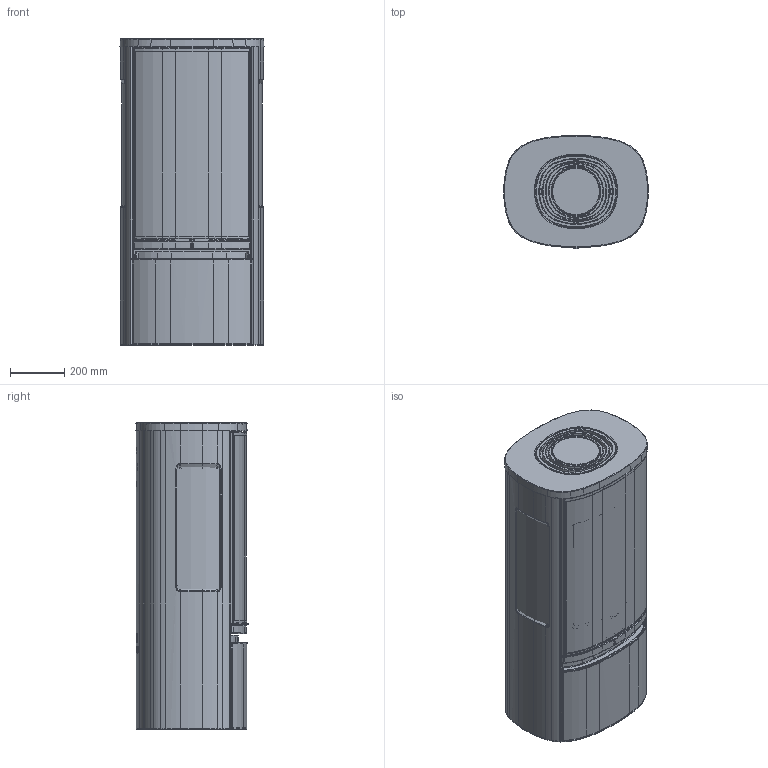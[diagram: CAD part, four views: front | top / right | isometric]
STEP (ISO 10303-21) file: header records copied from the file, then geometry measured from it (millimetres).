
FILE_DESCRIPTION(/* description */ ('Unknown'),/* implementation_level */ '2;1');
FILE_NAME(/* name */ 'DSN1111527_0_asm',/* time_stamp */ '2025-02-27T07:23:37+01:00',/* author */ ('Unknown'),/* organization */ ('NIBE AB'),/* preprocessor_version */ 'ST-DEVELOPER v18.102',/* originating_system */ 'Solid Edge',/* authorisation */ 'Unknown');
FILE_SCHEMA (('CONFIG_CONTROL_DESIGN'));
Products named in the file (13): DSN1111527; DSN1111481; DSN1110949; DSN1111452; DSN1110955; DSN1111509; DSN1111155; DSN1111118; DSN1111371; DSN1111098; DSN1111459; DSN1111410; DSN1111454
Assembly tree (14 placements, depth 2):
  DSN1111527
    DSN1111481  x2
    DSN1110949
    DSN1111452
    DSN1110955
    DSN1111509  x2
    DSN1111155
    DSN1111118
    DSN1111371
    DSN1111098
    DSN1111459
    DSN1111410
    DSN1111454
Bounding box: 534.52 x 417.01 x 1135 mm (x, y, z)
Volume: 163871085.6 mm3; surface area: 9546299.3 mm2
Topology: 14 solids, 14 shells, 1640 faces, 4254 edges, 2686 vertices
Faces by surface type: plane 444, cylinder 407, bspline 395, torus 228, cone 154, sphere 12
Full cylindrical faces by diameter (mm): 5 x5, 176.4 x1, 180.592 x1, 213.2 x1
Entity records: 80413 total; most frequent: CARTESIAN_POINT 42584, ORIENTED_EDGE 8344, DIRECTION 7113, EDGE_CURVE 4172, AXIS2_PLACEMENT_3D 2827, VERTEX_POINT 2654, FACE_BOUND 1732, EDGE_LOOP 1731
